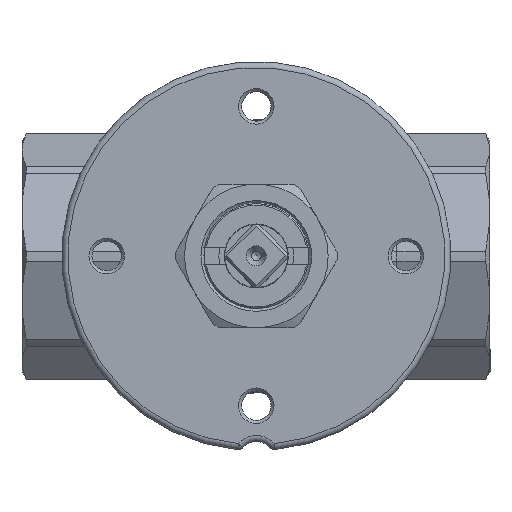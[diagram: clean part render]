
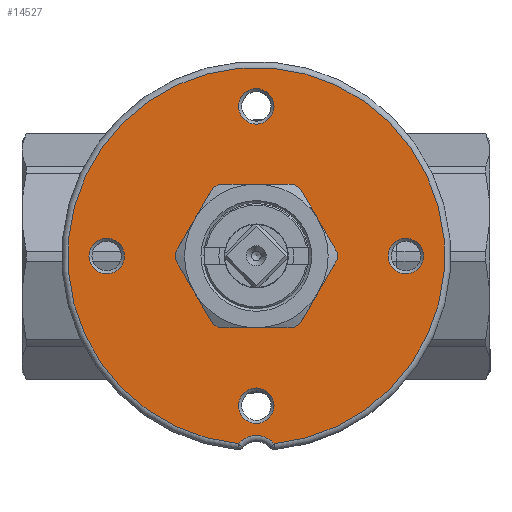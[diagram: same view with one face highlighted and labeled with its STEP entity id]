
A CAD part, top view. The second image highlights one B-rep face of the part: STEP entity #14527.
In plain terms, the highlighted planar face has unit normal (0, 0, 1) as drawn and (-1, 0, 0) by its records, which use the part's own axes.
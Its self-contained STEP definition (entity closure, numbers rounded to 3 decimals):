
#14443=CARTESIAN_POINT('',(-12.5,2.959,-25.0));
#14444=VERTEX_POINT('',#14443);
#14445=CARTESIAN_POINT('',(-12.5,0.,-25.0));
#14446=DIRECTION('',(-1.0,0.0,0.0));
#14447=DIRECTION('',(0.0,-1.0,0.0));
#14448=AXIS2_PLACEMENT_3D('',#14445,#14446,#14447);
#14449=CIRCLE('',#14448,2.959);
#14450=EDGE_CURVE('',#14444,#14444,#14449,.T.);
#14455=CARTESIAN_POINT('',(-12.5,16.25,0.0));
#14456=DIRECTION('',(-1.0,0.0,0.0));
#14457=DIRECTION('',(0.0,0.0,1.0));
#14458=AXIS2_PLACEMENT_3D('',#14455,#14456,#14457);
#14459=PLANE('',#14458);
#14460=CARTESIAN_POINT('',(-12.5,3.002,31.357));
#14461=VERTEX_POINT('',#14460);
#14462=CARTESIAN_POINT('',(-12.5,-3.002,31.357));
#14463=VERTEX_POINT('',#14462);
#14464=CARTESIAN_POINT('',(-12.5,0.,34.0));
#14465=DIRECTION('',(-1.0,0.0,0.0));
#14466=DIRECTION('',(0.0,0.0,-1.0));
#14467=AXIS2_PLACEMENT_3D('',#14464,#14465,#14466);
#14468=CIRCLE('',#14467,4.0);
#14469=EDGE_CURVE('',#14461,#14463,#14468,.T.);
#14470=ORIENTED_EDGE('',*,*,#14469,.F.);
#14471=CARTESIAN_POINT('',(-12.5,0.,0.0));
#14472=DIRECTION('',(1.0,0.0,0.0));
#14473=DIRECTION('',(0.0,-1.0,0.0));
#14474=AXIS2_PLACEMENT_3D('',#14471,#14472,#14473);
#14475=CIRCLE('',#14474,31.5);
#14476=EDGE_CURVE('',#14463,#14461,#14475,.T.);
#14477=ORIENTED_EDGE('',*,*,#14476,.F.);
#14478=EDGE_LOOP('',(#14470,#14477));
#14479=FACE_OUTER_BOUND('',#14478,.T.);
#14480=CARTESIAN_POINT('',(-12.5,27.958,0.));
#14481=VERTEX_POINT('',#14480);
#14482=CARTESIAN_POINT('',(-12.5,25.0,0.0));
#14483=DIRECTION('',(-1.0,0.0,0.0));
#14484=DIRECTION('',(0.0,-1.0,0.0));
#14485=AXIS2_PLACEMENT_3D('',#14482,#14483,#14484);
#14486=CIRCLE('',#14485,2.958);
#14487=EDGE_CURVE('',#14481,#14481,#14486,.T.);
#14488=ORIENTED_EDGE('',*,*,#14487,.F.);
#14489=EDGE_LOOP('',(#14488));
#14490=FACE_BOUND('',#14489,.T.);
#14491=CARTESIAN_POINT('',(-12.5,2.959,25.0));
#14492=VERTEX_POINT('',#14491);
#14493=CARTESIAN_POINT('',(-12.5,0.,25.0));
#14494=DIRECTION('',(-1.0,0.0,0.0));
#14495=DIRECTION('',(0.0,-1.0,0.0));
#14496=AXIS2_PLACEMENT_3D('',#14493,#14494,#14495);
#14497=CIRCLE('',#14496,2.959);
#14498=EDGE_CURVE('',#14492,#14492,#14497,.T.);
#14499=ORIENTED_EDGE('',*,*,#14498,.F.);
#14500=EDGE_LOOP('',(#14499));
#14501=FACE_BOUND('',#14500,.T.);
#14502=CARTESIAN_POINT('',(-12.5,-9.5,0.));
#14503=VERTEX_POINT('',#14502);
#14504=CARTESIAN_POINT('',(-12.5,0.,0.0));
#14505=DIRECTION('',(1.0,0.0,0.0));
#14506=DIRECTION('',(0.0,1.0,0.0));
#14507=AXIS2_PLACEMENT_3D('',#14504,#14505,#14506);
#14508=CIRCLE('',#14507,9.5);
#14509=EDGE_CURVE('',#14503,#14503,#14508,.T.);
#14510=ORIENTED_EDGE('',*,*,#14509,.T.);
#14511=EDGE_LOOP('',(#14510));
#14512=FACE_BOUND('',#14511,.T.);
#14513=CARTESIAN_POINT('',(-12.5,-22.042,0.));
#14514=VERTEX_POINT('',#14513);
#14515=CARTESIAN_POINT('',(-12.5,-25.0,0.0));
#14516=DIRECTION('',(-1.0,0.0,0.0));
#14517=DIRECTION('',(0.0,-1.0,0.0));
#14518=AXIS2_PLACEMENT_3D('',#14515,#14516,#14517);
#14519=CIRCLE('',#14518,2.958);
#14520=EDGE_CURVE('',#14514,#14514,#14519,.T.);
#14521=ORIENTED_EDGE('',*,*,#14520,.F.);
#14522=EDGE_LOOP('',(#14521));
#14523=FACE_BOUND('',#14522,.T.);
#14524=ORIENTED_EDGE('',*,*,#14450,.F.);
#14525=EDGE_LOOP('',(#14524));
#14526=FACE_BOUND('',#14525,.T.);
#14527=ADVANCED_FACE('',(#14479,#14490,#14501,#14512,#14523,#14526),#14459,.T.);
